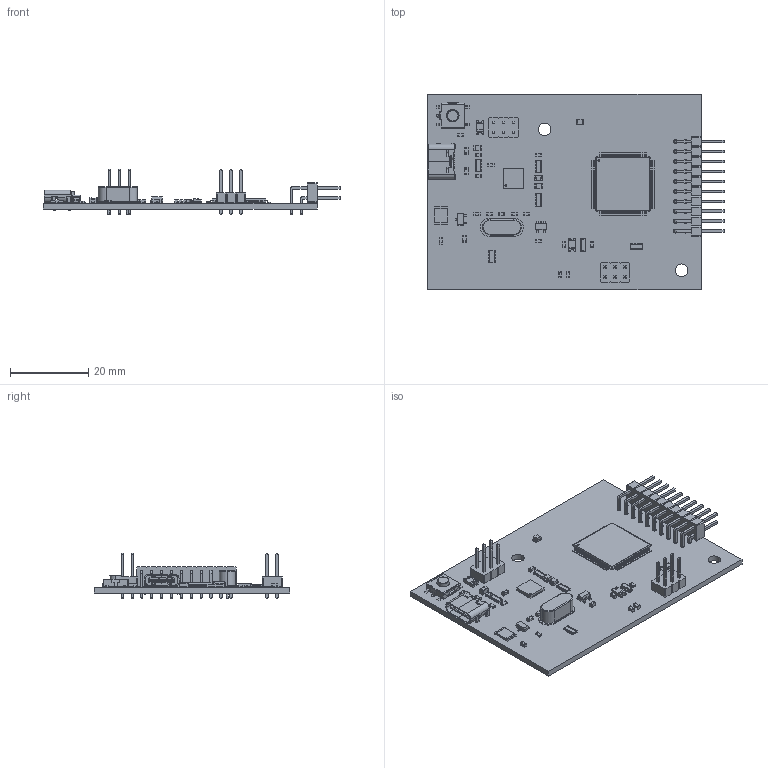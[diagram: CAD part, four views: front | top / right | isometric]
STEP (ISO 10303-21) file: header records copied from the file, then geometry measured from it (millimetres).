
FILE_DESCRIPTION(('KiCad electronic assembly'),'2;1');
FILE_NAME('Main2.step','2025-10-26T21:10:12',('Pcbnew'),('Kicad'), 'Open CASCADE STEP processor 7.8','KiCad to STEP converter','Unknown' );
FILE_SCHEMA(('AUTOMOTIVE_DESIGN { 1 0 10303 214 1 1 1 1 }'));
Length unit declared in the file: millimetre
Products named in the file (19): Main2 1; C_0603_1608Metric; TQFP-100_14x14mm_P0.5mm; LED_0805_2012Metric; R_0603_1608Metric; R_Array_Convex_4x0603; R_1812_4532Metric; PinHeader_2x10_P2.54mm_Horizontal; QFN-32-1EP_5x5mm_P0.5mm_EP3.3x3.3mm; L_0805_2012Metric; Resonator_SMD_Murata_CSTxExxV-3Pin_3.0x1.1mm; Crystal_HC49-4H_Vertical; PinHeader_2x03_P2.54mm_Vertical; D_1206_3216Metric; CUI_DEVICES_TS06-667-30-BK-100-G-SMT-TR; SOT-23-5; SC-59; USB_C_Receptacle_GCT_USB4125-xx-x-0190_6P_TopMnt_Horizontal; Main_PCB
Assembly tree (43 placements, depth 2):
  Main2 1
    C_0603_1608Metric  x12
    TQFP-100_14x14mm_P0.5mm
    LED_0805_2012Metric  x3
    R_0603_1608Metric  x7
    R_Array_Convex_4x0603  x5
    R_1812_4532Metric
    PinHeader_2x10_P2.54mm_Horizontal
    QFN-32-1EP_5x5mm_P0.5mm_EP3.3x3.3mm
    L_0805_2012Metric
    Resonator_SMD_Murata_CSTxExxV-3Pin_3.0x1.1mm
    Crystal_HC49-4H_Vertical
    PinHeader_2x03_P2.54mm_Vertical  x2
    D_1206_3216Metric  x2
    CUI_DEVICES_TS06-667-30-BK-100-G-SMT-TR
    SOT-23-5
    SC-59
    USB_C_Receptacle_GCT_USB4125-xx-x-0190_6P_TopMnt_Horizontal
    Main_PCB
Bounding box: 76 x 50 x 11.54 mm (x, y, z)
Volume: 6507.7 mm3; surface area: 11075.8 mm2
Topology: 64 solids, 64 shells, 5378 faces, 14466 edges, 9314 vertices
Faces by surface type: plane 3851, cylinder 1329, bspline 188, torus 6, cone 4
Full cylindrical faces by diameter (mm): 0.5 x4, 0.8 x4, 1 x32, 3.2 x2
Entity records: 144881 total; most frequent: CARTESIAN_POINT 23944, ORIENTED_EDGE 20192, DIRECTION 18992, EDGE_CURVE 10088, LINE 8258, VECTOR 8258, VERTEX_POINT 6406, AXIS2_PLACEMENT_3D 5367
